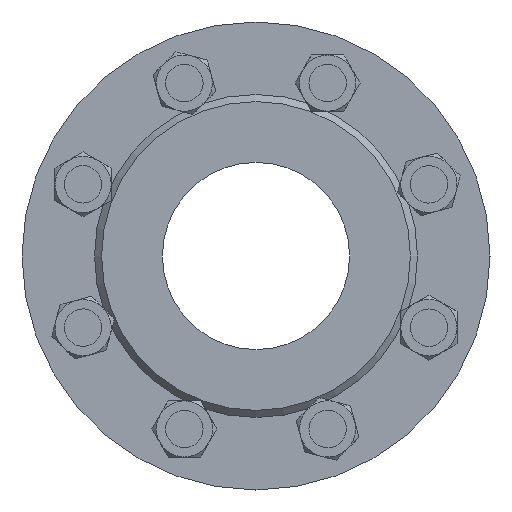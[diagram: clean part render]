
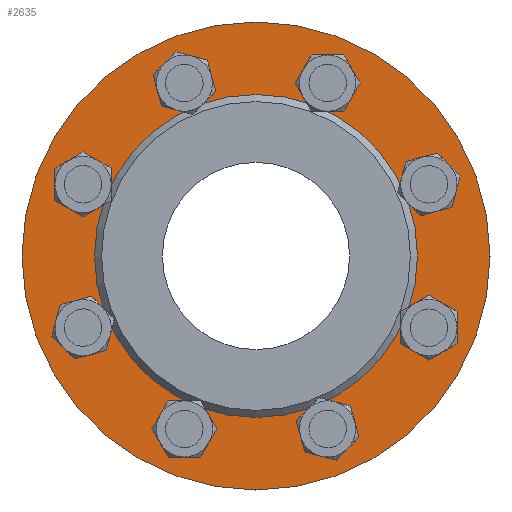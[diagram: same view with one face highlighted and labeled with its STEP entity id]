
A CAD part, left-side view. The second image highlights one B-rep face of the part: STEP entity #2635.
In plain terms, the highlighted planar face has unit normal (-1, 0, 0).
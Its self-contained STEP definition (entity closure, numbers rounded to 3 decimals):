
#220 = CIRCLE ( 'NONE', #19963, 8. ) ;
#628 = CIRCLE ( 'NONE', #23108, 69. ) ;
#753 = FACE_OUTER_BOUND ( 'NONE', #15941, .T. ) ;
#1037 = DIRECTION ( 'NONE',  ( 1., 0., 0. ) ) ;
#1260 = CARTESIAN_POINT ( 'NONE',  ( 3., 73.91, -30.615 ) ) ;
#1723 = CARTESIAN_POINT ( 'NONE',  ( 3., 81.91, 30.615 ) ) ;
#2635 = ADVANCED_FACE ( 'NONE', ( #20437, #27338, #5346, #9649, #20579, #11950, #15857, #27049, #11814, #753 ), #9517, .F. ) ;
#2710 = CARTESIAN_POINT ( 'NONE',  ( 3., -22.615, 73.91 ) ) ;
#2982 = DIRECTION ( 'NONE',  ( 0., 1., 0. ) ) ;
#3134 = VERTEX_POINT ( 'NONE', #27563 ) ;
#3136 = EDGE_CURVE ( 'NONE', #19399, #19399, #13835, .T. ) ;
#3606 = EDGE_LOOP ( 'NONE', ( #5309 ) ) ;
#3698 = DIRECTION ( 'NONE',  ( 0., 1., 0. ) ) ;
#4058 = EDGE_LOOP ( 'NONE', ( #19713 ) ) ;
#4266 = EDGE_CURVE ( 'NONE', #9305, #9305, #7877, .T. ) ;
#4354 = ORIENTED_EDGE ( 'NONE', *, *, #5442, .F. ) ;
#4427 = DIRECTION ( 'NONE',  ( -1., 0., 0. ) ) ;
#4436 = AXIS2_PLACEMENT_3D ( 'NONE', #24799, #5249, #7550 ) ;
#5138 = VERTEX_POINT ( 'NONE', #15518 ) ;
#5249 = DIRECTION ( 'NONE',  ( -1., 0., 0. ) ) ;
#5309 = ORIENTED_EDGE ( 'NONE', *, *, #12178, .F. ) ;
#5346 = FACE_BOUND ( 'NONE', #4058, .T. ) ;
#5442 = EDGE_CURVE ( 'NONE', #20237, #20237, #27680, .T. ) ;
#5600 = DIRECTION ( 'NONE',  ( 0., 1., 0. ) ) ;
#5716 = CARTESIAN_POINT ( 'NONE',  ( 3., 30.615, -73.91 ) ) ;
#6070 = AXIS2_PLACEMENT_3D ( 'NONE', #28289, #17385, #11179 ) ;
#6297 = DIRECTION ( 'NONE',  ( -1., 0., 0. ) ) ;
#6302 = DIRECTION ( 'NONE',  ( -1., 0., 0. ) ) ;
#7550 = DIRECTION ( 'NONE',  ( 0., 1., 0. ) ) ;
#7877 = CIRCLE ( 'NONE', #6070, 8. ) ;
#8945 = EDGE_CURVE ( 'NONE', #5138, #5138, #11635, .T. ) ;
#9099 = EDGE_LOOP ( 'NONE', ( #27088 ) ) ;
#9305 = VERTEX_POINT ( 'NONE', #2710 ) ;
#9517 = PLANE ( 'NONE',  #26365 ) ;
#9558 = CARTESIAN_POINT ( 'NONE',  ( 3., 81.91, -30.615 ) ) ;
#9649 = FACE_BOUND ( 'NONE', #12855, .T. ) ;
#10144 = DIRECTION ( 'NONE',  ( -1., 0., 0. ) ) ;
#10274 = CIRCLE ( 'NONE', #18068, 8. ) ;
#10755 = ORIENTED_EDGE ( 'NONE', *, *, #22334, .T. ) ;
#11143 = DIRECTION ( 'NONE',  ( -1., 0., 0. ) ) ;
#11179 = DIRECTION ( 'NONE',  ( 0., 1., 0. ) ) ;
#11426 = VERTEX_POINT ( 'NONE', #17772 ) ;
#11635 = CIRCLE ( 'NONE', #12118, 8. ) ;
#11706 = EDGE_LOOP ( 'NONE', ( #12558 ) ) ;
#11814 = FACE_BOUND ( 'NONE', #28187, .T. ) ;
#11893 = ORIENTED_EDGE ( 'NONE', *, *, #4266, .F. ) ;
#11950 = FACE_BOUND ( 'NONE', #9099, .T. ) ;
#12102 = ORIENTED_EDGE ( 'NONE', *, *, #8945, .F. ) ;
#12118 = AXIS2_PLACEMENT_3D ( 'NONE', #18396, #22710, #5600 ) ;
#12178 = EDGE_CURVE ( 'NONE', #3134, #3134, #20965, .T. ) ;
#12462 = AXIS2_PLACEMENT_3D ( 'NONE', #20064, #11143, #15601 ) ;
#12558 = ORIENTED_EDGE ( 'NONE', *, *, #3136, .F. ) ;
#12638 = VERTEX_POINT ( 'NONE', #17251 ) ;
#12672 = CIRCLE ( 'NONE', #4436, 8. ) ;
#12855 = EDGE_LOOP ( 'NONE', ( #12102 ) ) ;
#13343 = EDGE_LOOP ( 'NONE', ( #4354 ) ) ;
#13835 = CIRCLE ( 'NONE', #12462, 8. ) ;
#14491 = EDGE_LOOP ( 'NONE', ( #28063 ) ) ;
#15068 = CARTESIAN_POINT ( 'NONE',  ( 3., 0., 0. ) ) ;
#15518 = CARTESIAN_POINT ( 'NONE',  ( 3., -65.91, -30.615 ) ) ;
#15601 = DIRECTION ( 'NONE',  ( 0., 1., 0. ) ) ;
#15857 = FACE_BOUND ( 'NONE', #14491, .T. ) ;
#15941 = EDGE_LOOP ( 'NONE', ( #10755 ) ) ;
#16163 = VERTEX_POINT ( 'NONE', #18328 ) ;
#16778 = DIRECTION ( 'NONE',  ( 0., 1., 0. ) ) ;
#17251 = CARTESIAN_POINT ( 'NONE',  ( 3., -65.91, 30.615 ) ) ;
#17385 = DIRECTION ( 'NONE',  ( -1., 0., 0. ) ) ;
#17571 = AXIS2_PLACEMENT_3D ( 'NONE', #25697, #6297, #3698 ) ;
#17743 = CIRCLE ( 'NONE', #23679, 100. ) ;
#17772 = CARTESIAN_POINT ( 'NONE',  ( 3., -69., 0. ) ) ;
#17786 = CARTESIAN_POINT ( 'NONE',  ( 3., -30.615, -73.91 ) ) ;
#18037 = VERTEX_POINT ( 'NONE', #9558 ) ;
#18068 = AXIS2_PLACEMENT_3D ( 'NONE', #1260, #27550, #16778 ) ;
#18117 = EDGE_CURVE ( 'NONE', #11426, #11426, #628, .T. ) ;
#18151 = EDGE_CURVE ( 'NONE', #18037, #18037, #10274, .T. ) ;
#18220 = ORIENTED_EDGE ( 'NONE', *, *, #18117, .F. ) ;
#18328 = CARTESIAN_POINT ( 'NONE',  ( 3., 38.615, -73.91 ) ) ;
#18396 = CARTESIAN_POINT ( 'NONE',  ( 3., -73.91, -30.615 ) ) ;
#18492 = DIRECTION ( 'NONE',  ( 0., -1., 0. ) ) ;
#19066 = CARTESIAN_POINT ( 'NONE',  ( 3., 0., 0. ) ) ;
#19351 = EDGE_CURVE ( 'NONE', #16163, #16163, #220, .T. ) ;
#19399 = VERTEX_POINT ( 'NONE', #1723 ) ;
#19713 = ORIENTED_EDGE ( 'NONE', *, *, #22022, .F. ) ;
#19963 = AXIS2_PLACEMENT_3D ( 'NONE', #5716, #27281, #2982 ) ;
#20064 = CARTESIAN_POINT ( 'NONE',  ( 3., 73.91, 30.615 ) ) ;
#20237 = VERTEX_POINT ( 'NONE', #24561 ) ;
#20437 = FACE_BOUND ( 'NONE', #13343, .T. ) ;
#20579 = FACE_BOUND ( 'NONE', #3606, .T. ) ;
#20709 = CARTESIAN_POINT ( 'NONE',  ( 3., 69., 0. ) ) ;
#20965 = CIRCLE ( 'NONE', #26028, 8. ) ;
#22022 = EDGE_CURVE ( 'NONE', #12638, #12638, #12672, .T. ) ;
#22334 = EDGE_CURVE ( 'NONE', #26018, #26018, #17743, .T. ) ;
#22710 = DIRECTION ( 'NONE',  ( -1., 0., 0. ) ) ;
#23108 = AXIS2_PLACEMENT_3D ( 'NONE', #19066, #10144, #18492 ) ;
#23679 = AXIS2_PLACEMENT_3D ( 'NONE', #15068, #6302, #25703 ) ;
#24561 = CARTESIAN_POINT ( 'NONE',  ( 3., 38.615, 73.91 ) ) ;
#24622 = DIRECTION ( 'NONE',  ( 0., 1., 0. ) ) ;
#24678 = DIRECTION ( 'NONE',  ( 0., 1., 0. ) ) ;
#24799 = CARTESIAN_POINT ( 'NONE',  ( 3., -73.91, 30.615 ) ) ;
#25697 = CARTESIAN_POINT ( 'NONE',  ( 3., 30.615, 73.91 ) ) ;
#25703 = DIRECTION ( 'NONE',  ( 0., -1., 0. ) ) ;
#26018 = VERTEX_POINT ( 'NONE', #28014 ) ;
#26028 = AXIS2_PLACEMENT_3D ( 'NONE', #17786, #4427, #24678 ) ;
#26365 = AXIS2_PLACEMENT_3D ( 'NONE', #20709, #1037, #24622 ) ;
#26917 = EDGE_LOOP ( 'NONE', ( #11893 ) ) ;
#27049 = FACE_BOUND ( 'NONE', #11706, .T. ) ;
#27088 = ORIENTED_EDGE ( 'NONE', *, *, #19351, .F. ) ;
#27281 = DIRECTION ( 'NONE',  ( -1., 0., 0. ) ) ;
#27338 = FACE_BOUND ( 'NONE', #26917, .T. ) ;
#27550 = DIRECTION ( 'NONE',  ( -1., 0., 0. ) ) ;
#27563 = CARTESIAN_POINT ( 'NONE',  ( 3., -22.615, -73.91 ) ) ;
#27680 = CIRCLE ( 'NONE', #17571, 8. ) ;
#28014 = CARTESIAN_POINT ( 'NONE',  ( 3., -100., 0. ) ) ;
#28063 = ORIENTED_EDGE ( 'NONE', *, *, #18151, .F. ) ;
#28187 = EDGE_LOOP ( 'NONE', ( #18220 ) ) ;
#28289 = CARTESIAN_POINT ( 'NONE',  ( 3., -30.615, 73.91 ) ) ;
